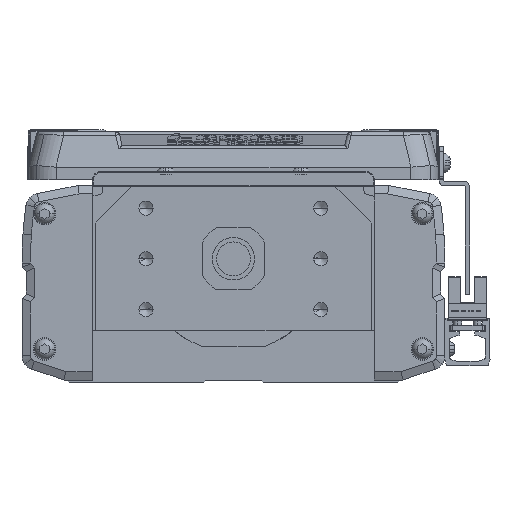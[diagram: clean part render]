
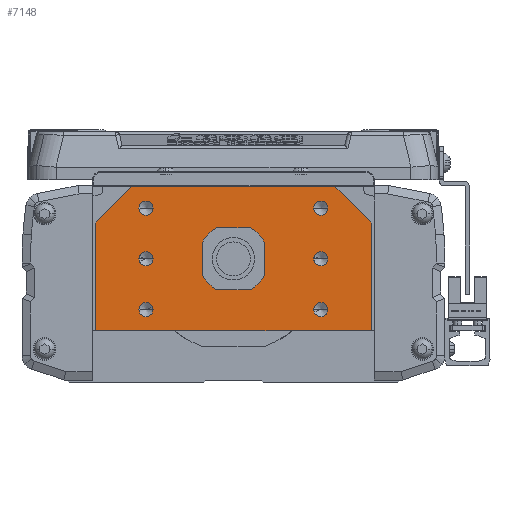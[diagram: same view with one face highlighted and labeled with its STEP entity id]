
A CAD part, left-side view. The second image highlights one B-rep face of the part: STEP entity #7148.
In plain terms, the highlighted planar face has unit normal (-1, 0, 0).
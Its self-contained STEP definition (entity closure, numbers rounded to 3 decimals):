
#7148=ADVANCED_FACE('',(#14539,#14540,#14541,#14542,#14543,#14544,#14545,#14546),#14547,.F.);
#14539=FACE_OUTER_BOUND('',#23640,.T.);
#14540=FACE_BOUND('',#23641,.T.);
#14541=FACE_BOUND('',#23642,.T.);
#14542=FACE_BOUND('',#23643,.T.);
#14543=FACE_BOUND('',#23644,.T.);
#14544=FACE_BOUND('',#23645,.T.);
#14545=FACE_BOUND('',#23646,.T.);
#14546=FACE_BOUND('',#23647,.T.);
#14547=PLANE('',#23648);
#23640=EDGE_LOOP('',(#43710,#43711,#43712,#43713,#43714,#43715,#43716,#43717));
#23641=EDGE_LOOP('',(#43718,#43719));
#23642=EDGE_LOOP('',(#43720,#43721));
#23643=EDGE_LOOP('',(#43722,#43723));
#23644=EDGE_LOOP('',(#43724,#43725));
#23645=EDGE_LOOP('',(#43726,#43727));
#23646=EDGE_LOOP('',(#43728,#43729));
#23647=EDGE_LOOP('',(#43730,#43731));
#23648=AXIS2_PLACEMENT_3D('',#43732,#43733,#43734);
#43710=ORIENTED_EDGE('',*,*,#48219,.F.);
#43711=ORIENTED_EDGE('',*,*,#50786,.F.);
#43712=ORIENTED_EDGE('',*,*,#49379,.F.);
#43713=ORIENTED_EDGE('',*,*,#52012,.F.);
#43714=ORIENTED_EDGE('',*,*,#54182,.F.);
#43715=ORIENTED_EDGE('',*,*,#48760,.F.);
#43716=ORIENTED_EDGE('',*,*,#50501,.F.);
#43717=ORIENTED_EDGE('',*,*,#48634,.F.);
#43718=ORIENTED_EDGE('',*,*,#47108,.T.);
#43719=ORIENTED_EDGE('',*,*,#54270,.T.);
#43720=ORIENTED_EDGE('',*,*,#54293,.T.);
#43721=ORIENTED_EDGE('',*,*,#54365,.T.);
#43722=ORIENTED_EDGE('',*,*,#50779,.T.);
#43723=ORIENTED_EDGE('',*,*,#48716,.T.);
#43724=ORIENTED_EDGE('',*,*,#49475,.T.);
#43725=ORIENTED_EDGE('',*,*,#50528,.T.);
#43726=ORIENTED_EDGE('',*,*,#54366,.T.);
#43727=ORIENTED_EDGE('',*,*,#51097,.T.);
#43728=ORIENTED_EDGE('',*,*,#46883,.T.);
#43729=ORIENTED_EDGE('',*,*,#47811,.T.);
#43730=ORIENTED_EDGE('',*,*,#51200,.F.);
#43731=ORIENTED_EDGE('',*,*,#52583,.F.);
#43732=CARTESIAN_POINT('',(0.,0.275,-2.548));
#43733=DIRECTION('',(1.0,0.,0.));
#43734=DIRECTION('',(0.,1.0,0.));
#46883=EDGE_CURVE('',#55909,#55913,#55915,.T.);
#47108=EDGE_CURVE('',#56305,#56309,#56311,.T.);
#47811=EDGE_CURVE('',#55913,#55909,#57529,.T.);
#48219=EDGE_CURVE('',#58229,#58230,#58231,.T.);
#48634=EDGE_CURVE('',#58230,#58945,#58946,.T.);
#48716=EDGE_CURVE('',#59077,#59075,#59078,.T.);
#48760=EDGE_CURVE('',#59147,#59150,#59151,.T.);
#49379=EDGE_CURVE('',#60152,#60154,#60155,.T.);
#49475=EDGE_CURVE('',#60300,#60304,#60306,.T.);
#50501=EDGE_CURVE('',#58945,#59147,#61881,.T.);
#50528=EDGE_CURVE('',#60304,#60300,#61919,.T.);
#50779=EDGE_CURVE('',#59075,#59077,#62287,.T.);
#50786=EDGE_CURVE('',#60154,#58229,#62296,.T.);
#51097=EDGE_CURVE('',#62758,#62756,#62759,.T.);
#51200=EDGE_CURVE('',#62905,#62900,#62907,.F.);
#52012=EDGE_CURVE('',#64012,#60152,#64014,.T.);
#52583=EDGE_CURVE('',#62900,#62905,#64742,.F.);
#54182=EDGE_CURVE('',#59150,#64012,#66643,.T.);
#54270=EDGE_CURVE('',#56309,#56305,#66742,.T.);
#54293=EDGE_CURVE('',#66762,#66765,#66767,.T.);
#54365=EDGE_CURVE('',#66765,#66762,#66849,.T.);
#54366=EDGE_CURVE('',#62756,#62758,#66850,.T.);
#55909=VERTEX_POINT('',#68758);
#55913=VERTEX_POINT('',#68763);
#55915=CIRCLE('',#68766,2.5);
#56305=VERTEX_POINT('',#69274);
#56309=VERTEX_POINT('',#69279);
#56311=CIRCLE('',#69282,2.5);
#57529=CIRCLE('',#70989,2.5);
#58229=VERTEX_POINT('',#71901);
#58230=VERTEX_POINT('',#71902);
#58231=LINE('',#71903,#71904);
#58945=VERTEX_POINT('',#72911);
#58946=LINE('',#72912,#72913);
#59075=VERTEX_POINT('',#73080);
#59077=VERTEX_POINT('',#73083);
#59078=CIRCLE('',#73084,2.5);
#59147=VERTEX_POINT('',#73177);
#59150=VERTEX_POINT('',#73181);
#59151=LINE('',#73182,#73183);
#60152=VERTEX_POINT('',#74561);
#60154=VERTEX_POINT('',#74564);
#60155=LINE('',#74565,#74566);
#60300=VERTEX_POINT('',#74760);
#60304=VERTEX_POINT('',#74765);
#60306=CIRCLE('',#74768,2.5);
#61881=LINE('',#76975,#76976);
#61919=CIRCLE('',#77031,2.5);
#62287=CIRCLE('',#77523,2.5);
#62296=LINE('',#77536,#77537);
#62756=VERTEX_POINT('',#78149);
#62758=VERTEX_POINT('',#78152);
#62759=CIRCLE('',#78153,2.5);
#62900=VERTEX_POINT('',#78344);
#62905=VERTEX_POINT('',#78350);
#62907=CIRCLE('',#78353,7.5);
#64012=VERTEX_POINT('',#80102);
#64014=LINE('',#80105,#80106);
#64742=CIRCLE('',#81122,7.5);
#66643=LINE('',#83839,#83840);
#66742=CIRCLE('',#83969,2.5);
#66762=VERTEX_POINT('',#84017);
#66765=VERTEX_POINT('',#84021);
#66767=CIRCLE('',#84024,2.5);
#66849=CIRCLE('',#84129,2.5);
#66850=CIRCLE('',#84130,2.5);
#68758=CARTESIAN_POINT('',(0.,-33.5,0.));
#68763=CARTESIAN_POINT('',(0.,-28.5,0.));
#68766=AXIS2_PLACEMENT_3D('',#85487,#85488,#85489);
#69274=CARTESIAN_POINT('',(0.,33.5,-18.));
#69279=CARTESIAN_POINT('',(0.,28.5,-18.));
#69282=AXIS2_PLACEMENT_3D('',#85796,#85797,#85798);
#70989=AXIS2_PLACEMENT_3D('',#86733,#86734,#86735);
#71901=CARTESIAN_POINT('',(0.,49.,12.7));
#71902=CARTESIAN_POINT('',(0.,36.,25.7));
#71903=CARTESIAN_POINT('',(0.,37.381,24.319));
#71904=VECTOR('',#87311,10.);
#72911=CARTESIAN_POINT('',(0.,-36.,25.7));
#72912=CARTESIAN_POINT('',(0.,34.5,25.7));
#72913=VECTOR('',#87946,10.0);
#73080=CARTESIAN_POINT('',(0.,33.5,18.));
#73083=CARTESIAN_POINT('',(0.,28.5,18.));
#73084=AXIS2_PLACEMENT_3D('',#88061,#88062,#88063);
#73177=CARTESIAN_POINT('',(0.,-49.,12.7));
#73181=CARTESIAN_POINT('',(0.,-49.,-25.));
#73182=CARTESIAN_POINT('',(0.,-49.,-14.));
#73183=VECTOR('',#88113,10.0);
#74561=CARTESIAN_POINT('',(0.,48.5,-25.5));
#74564=CARTESIAN_POINT('',(0.,49.,-25.));
#74565=CARTESIAN_POINT('',(0.,48.5,-25.5));
#74566=VECTOR('',#88908,10.0);
#74760=CARTESIAN_POINT('',(0.,-33.5,18.));
#74765=CARTESIAN_POINT('',(0.,-28.5,18.));
#74768=AXIS2_PLACEMENT_3D('',#89029,#89030,#89031);
#76975=CARTESIAN_POINT('',(0.,-37.243,24.457));
#76976=VECTOR('',#90441,10.0);
#77031=AXIS2_PLACEMENT_3D('',#90465,#90466,#90467);
#77523=AXIS2_PLACEMENT_3D('',#90802,#90803,#90804);
#77536=CARTESIAN_POINT('',(0.,49.,-25.));
#77537=VECTOR('',#90809,10.0);
#78149=CARTESIAN_POINT('',(0.,33.5,0.));
#78152=CARTESIAN_POINT('',(0.,28.5,0.));
#78153=AXIS2_PLACEMENT_3D('',#91272,#91273,#91274);
#78344=CARTESIAN_POINT('',(0.,-7.5,0.));
#78350=CARTESIAN_POINT('',(0.,7.5,0.));
#78353=AXIS2_PLACEMENT_3D('',#91399,#91400,#91401);
#80102=CARTESIAN_POINT('',(0.,-48.5,-25.5));
#80105=CARTESIAN_POINT('',(0.,0.,-25.5));
#80106=VECTOR('',#92418,10.0);
#81122=AXIS2_PLACEMENT_3D('',#93034,#93035,#93036);
#83839=CARTESIAN_POINT('',(0.,-49.,-25.));
#83840=VECTOR('',#94524,10.0);
#83969=AXIS2_PLACEMENT_3D('',#94601,#94602,#94603);
#84017=CARTESIAN_POINT('',(0.,-33.5,-18.));
#84021=CARTESIAN_POINT('',(0.,-28.5,-18.));
#84024=AXIS2_PLACEMENT_3D('',#94622,#94623,#94624);
#84129=AXIS2_PLACEMENT_3D('',#94675,#94676,#94677);
#84130=AXIS2_PLACEMENT_3D('',#94678,#94679,#94680);
#85487=CARTESIAN_POINT('',(0.,-31.,0.));
#85488=DIRECTION('',(1.0,0.,0.));
#85489=DIRECTION('',(0.,-1.0,0.));
#85796=CARTESIAN_POINT('',(0.,31.,-18.));
#85797=DIRECTION('',(1.0,0.,0.));
#85798=DIRECTION('',(0.,1.0,0.));
#86733=CARTESIAN_POINT('',(0.,-31.,0.));
#86734=DIRECTION('',(1.0,0.,0.));
#86735=DIRECTION('',(0.,-1.0,0.));
#87311=DIRECTION('',(0.,-0.707,0.707));
#87946=DIRECTION('',(0.,-1.0,0.));
#88061=CARTESIAN_POINT('',(0.,31.,18.));
#88062=DIRECTION('',(1.0,0.,0.));
#88063=DIRECTION('',(0.,1.0,0.));
#88113=DIRECTION('',(0.,0.,-1.0));
#88908=DIRECTION('',(0.,0.707,0.707));
#89029=CARTESIAN_POINT('',(0.,-31.,18.));
#89030=DIRECTION('',(1.0,0.,0.));
#89031=DIRECTION('',(0.,-1.0,0.));
#90441=DIRECTION('',(0.,-0.707,-0.707));
#90465=CARTESIAN_POINT('',(0.,-31.,18.));
#90466=DIRECTION('',(1.0,0.,0.));
#90467=DIRECTION('',(0.,-1.0,0.));
#90802=CARTESIAN_POINT('',(0.,31.,18.));
#90803=DIRECTION('',(1.0,0.,0.));
#90804=DIRECTION('',(0.,1.0,0.));
#90809=DIRECTION('',(0.,0.,1.0));
#91272=CARTESIAN_POINT('',(0.,31.,0.));
#91273=DIRECTION('',(1.0,0.,0.));
#91274=DIRECTION('',(0.,1.0,0.));
#91399=CARTESIAN_POINT('',(0.,0.,0.));
#91400=DIRECTION('',(1.0,0.,0.));
#91401=DIRECTION('',(0.,-1.0,0.));
#92418=DIRECTION('',(0.,1.0,0.));
#93034=CARTESIAN_POINT('',(0.,0.,0.));
#93035=DIRECTION('',(1.0,0.,0.));
#93036=DIRECTION('',(0.,-1.0,0.));
#94524=DIRECTION('',(0.,0.707,-0.707));
#94601=CARTESIAN_POINT('',(0.,31.,-18.));
#94602=DIRECTION('',(1.0,0.,0.));
#94603=DIRECTION('',(0.,1.0,0.));
#94622=CARTESIAN_POINT('',(0.,-31.,-18.));
#94623=DIRECTION('',(1.0,0.,0.));
#94624=DIRECTION('',(0.,-1.0,0.));
#94675=CARTESIAN_POINT('',(0.,-31.,-18.));
#94676=DIRECTION('',(1.0,0.,0.));
#94677=DIRECTION('',(0.,-1.0,0.));
#94678=CARTESIAN_POINT('',(0.,31.,0.));
#94679=DIRECTION('',(1.0,0.,0.));
#94680=DIRECTION('',(0.,1.0,0.));
